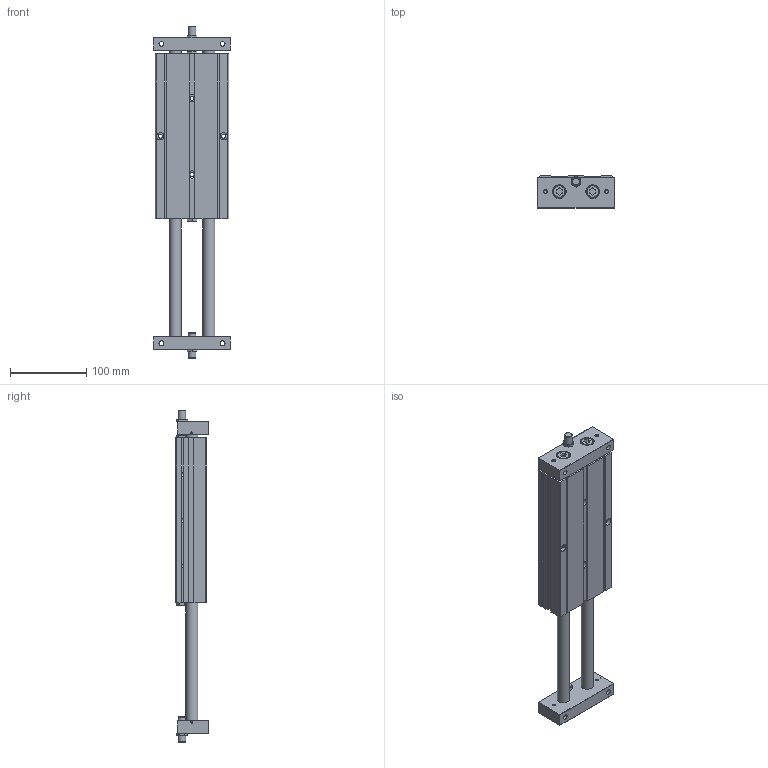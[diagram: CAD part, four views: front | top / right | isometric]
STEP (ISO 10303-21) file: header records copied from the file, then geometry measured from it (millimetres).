
FILE_DESCRIPTION((''),'2;1');
FILE_NAME('I:\3D電子目錄\氣缸\STU\STU\STU32\STU32x150.stp','2007-10-01T14:04:16',('Administrator'),(''),'Autodesk Inventor 11','Autodesk Inventor 11','');
FILE_SCHEMA(('AUTOMOTIVE_DESIGN { 1 0 10303 214 1 1 1 1 }'));
Length unit declared in the file: millimetre
Products named in the file (1): STU32
Bounding box: 100 x 42.5 x 435 mm (x, y, z)
Volume: 977352.4 mm3; surface area: 138330.3 mm2
Topology: 1 solids, 1 shells, 315 faces, 744 edges, 472 vertices
Faces by surface type: plane 145, cone 76, bspline 62, cylinder 28, torus 4
Full cylindrical faces by diameter (mm): 2.459 x2, 9.5 x4, 10 x4, 16 x6, 17.5 x4, 34 x2, 35.9 x2
Entity records: 9985 total; most frequent: CARTESIAN_POINT 3594, ORIENTED_EDGE 1220, DIRECTION 1212, EDGE_CURVE 610, EDGE_LOOP 518, AXIS2_PLACEMENT_3D 464, VERTEX_POINT 446, FACE_OUTER_BOUND 315
